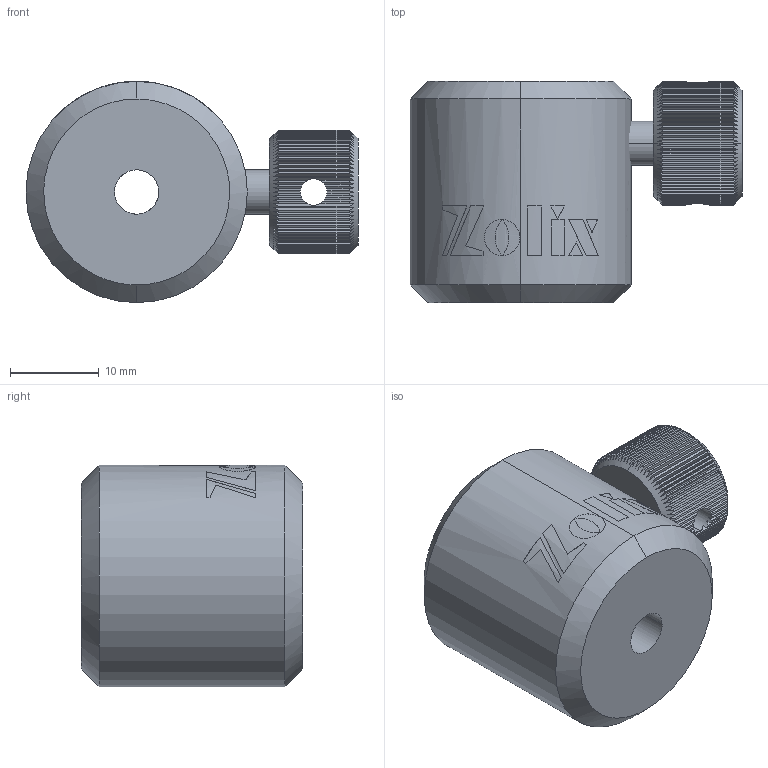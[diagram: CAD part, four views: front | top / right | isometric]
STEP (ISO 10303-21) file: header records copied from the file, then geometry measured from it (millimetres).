
FILE_DESCRIPTION (( 'STEP AP203' ), '1' );
FILE_NAME ('PHSH-1.STEP', '2019-05-10T02:25:29', ( '' ), ( '' ), 'SwSTEP 2.0', 'SolidWorks 2016', '' );
FILE_SCHEMA (( 'CONFIG_CONTROL_DESIGN' ));
Length unit declared in the file: millimetre
Products named in the file (1): PHSH-1
Bounding box: 37.5 x 25 x 25 mm (x, y, z)
Surface area: 4854.5 mm2 (no closed solid volume)
Topology: 0 solids, 2 shells, 375 faces, 1174 edges, 812 vertices
Faces by surface type: plane 221, cylinder 126, bspline 20, cone 8
Entity records: 14292 total; most frequent: CARTESIAN_POINT 4861, ORIENTED_EDGE 2343, DIRECTION 1453, EDGE_CURVE 1174, VERTEX_POINT 812, B_SPLINE_CURVE_WITH_KNOTS 603, AXIS2_PLACEMENT_3D 558, EDGE_LOOP 390
